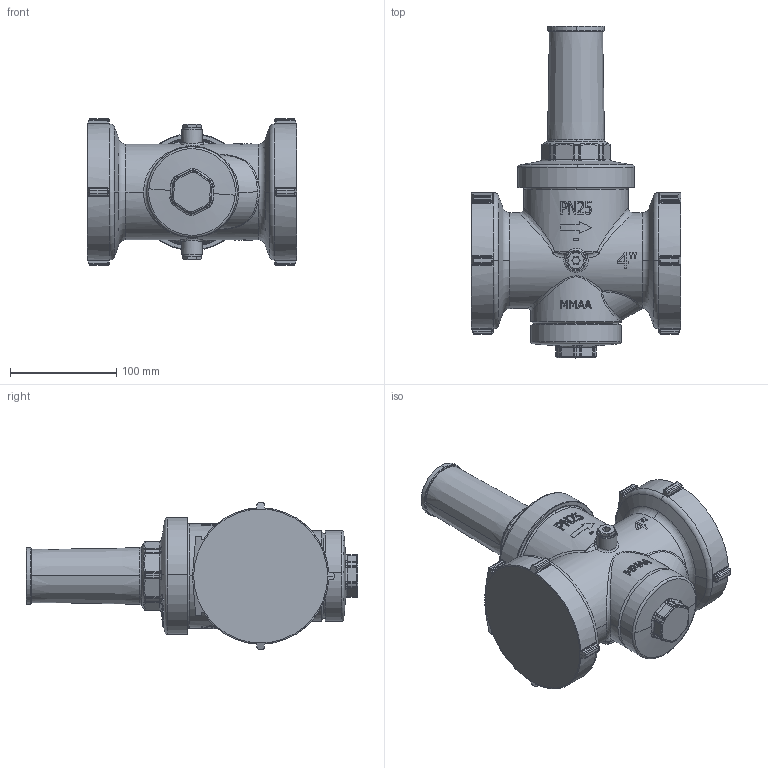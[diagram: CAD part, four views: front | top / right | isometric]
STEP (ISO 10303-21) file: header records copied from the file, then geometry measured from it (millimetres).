
FILE_DESCRIPTION (( 'STEP AP214' ), '1' );
FILE_NAME ('BPR409_standardowy_reduktor_cisnienia_9040910_0_3D_AFRISO.STEP', '2025-06-04T12:08:58', ( '' ), ( '' ), 'SwSTEP 2.0', 'SolidWorks 2024', '' );
FILE_SCHEMA (( 'AUTOMOTIVE_DESIGN' ));
Length unit declared in the file: millimetre
Products named in the file (7): 4402.081.00; BPR409_standardowy_reduktor_cisnienia_9040910_0_3D_AFRISO; 3301.601.00; 1001.601.02; 6201.050.00; 3101.581.00; 4401.008.00
Assembly tree (7 placements, depth 2):
  BPR409_standardowy_reduktor_cisnienia_9040910_0_3D_AFRISO
    1001.601.02
    3101.581.00
    3301.601.00
    4401.008.00  x2
    4402.081.00
    6201.050.00
Bounding box: 197 x 312.2 x 138 mm (x, y, z)
Volume: 2830684.1 mm3; surface area: 202451.6 mm2
Topology: 7 solids, 7 shells, 1103 faces, 2835 edges, 1798 vertices
Faces by surface type: plane 373, cylinder 334, bspline 211, torus 116, cone 67, sphere 2
Entity records: 68102 total; most frequent: CARTESIAN_POINT 34465, ORIENTED_EDGE 5340, DIRECTION 4111, EDGE_CURVE 2670, VERTEX_POINT 1698, AXIS2_PLACEMENT_3D 1570, EDGE_LOOP 1086, ADVANCED_FACE 1033
